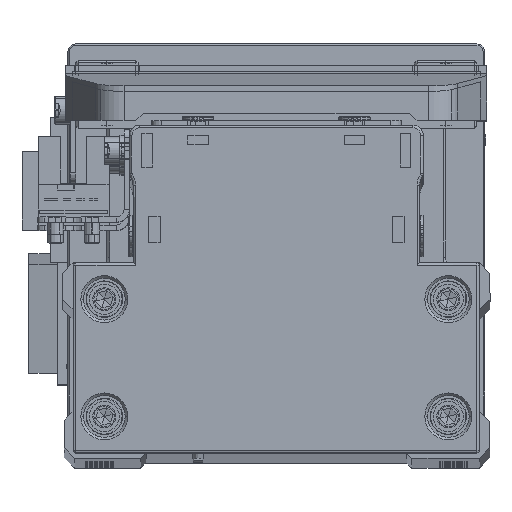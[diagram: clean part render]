
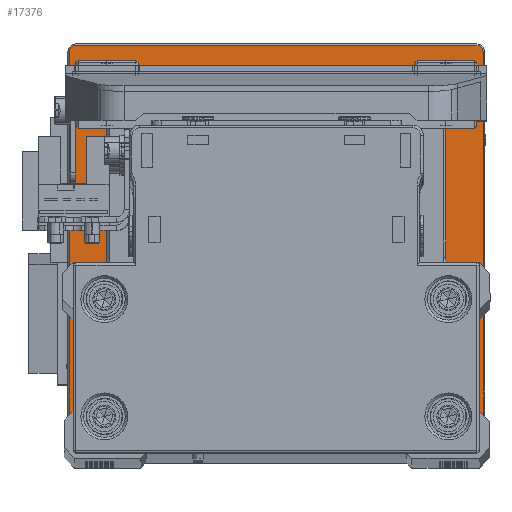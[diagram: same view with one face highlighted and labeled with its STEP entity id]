
A CAD part, top view. The second image highlights one B-rep face of the part: STEP entity #17376.
In plain terms, the highlighted planar face has unit normal (0, 0, 1) as drawn and (0, 1, 0) by its records, which use the part's own axes.
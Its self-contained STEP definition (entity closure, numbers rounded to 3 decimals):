
#340 = LINE ( 'NONE', #12747, #3082 ) ;
#949 = DIRECTION ( 'NONE',  ( 0., 0., 1. ) ) ;
#1612 = CARTESIAN_POINT ( 'NONE',  ( 38.5, 12., -39.7 ) ) ;
#1739 = LINE ( 'NONE', #14143, #7178 ) ;
#1895 = VERTEX_POINT ( 'NONE', #1612 ) ;
#2978 = EDGE_CURVE ( 'NONE', #23711, #27132, #32458, .T. ) ;
#2981 = CIRCLE ( 'NONE', #8174, 1.2 ) ;
#3082 = VECTOR ( 'NONE', #25151, 1000. ) ;
#3329 = DIRECTION ( 'NONE',  ( 0., 0., -1. ) ) ;
#4625 = CARTESIAN_POINT ( 'NONE',  ( 0., 12., 39.7 ) ) ;
#5483 = EDGE_CURVE ( 'NONE', #10350, #1895, #16930, .T. ) ;
#5490 = CARTESIAN_POINT ( 'NONE',  ( -38.5, 12., 39.7 ) ) ;
#6134 = ORIENTED_EDGE ( 'NONE', *, *, #9616, .F. ) ;
#6392 = PLANE ( 'NONE',  #30107 ) ;
#6418 = DIRECTION ( 'NONE',  ( 0., 0., -1. ) ) ;
#6762 = DIRECTION ( 'NONE',  ( 0., 0., 1. ) ) ;
#7178 = VECTOR ( 'NONE', #26543, 1000. ) ;
#8087 = CIRCLE ( 'NONE', #30814, 1.2 ) ;
#8174 = AXIS2_PLACEMENT_3D ( 'NONE', #12040, #24439, #36808 ) ;
#8805 = DIRECTION ( 'NONE',  ( 0., 1., 0. ) ) ;
#9616 = EDGE_CURVE ( 'NONE', #38145, #38342, #13702, .T. ) ;
#9993 = DIRECTION ( 'NONE',  ( 0., 0., -1. ) ) ;
#10350 = VERTEX_POINT ( 'NONE', #21409 ) ;
#11157 = DIRECTION ( 'NONE',  ( 0., 0., -1. ) ) ;
#12040 = CARTESIAN_POINT ( 'NONE',  ( -38.5, 12., 38.5 ) ) ;
#12449 = CARTESIAN_POINT ( 'NONE',  ( -39.7, 12., -38.5 ) ) ;
#12747 = CARTESIAN_POINT ( 'NONE',  ( 0., 12., -39.7 ) ) ;
#13702 = CIRCLE ( 'NONE', #36391, 20.5 ) ;
#14143 = CARTESIAN_POINT ( 'NONE',  ( -39.7, 12., 0. ) ) ;
#14469 = VERTEX_POINT ( 'NONE', #17444 ) ;
#14853 = ORIENTED_EDGE ( 'NONE', *, *, #38380, .T. ) ;
#15172 = AXIS2_PLACEMENT_3D ( 'NONE', #36615, #8805, #21195 ) ;
#16389 = CARTESIAN_POINT ( 'NONE',  ( 0., 12., 0. ) ) ;
#16586 = CIRCLE ( 'NONE', #21775, 20.5 ) ;
#16742 = ORIENTED_EDGE ( 'NONE', *, *, #2978, .T. ) ;
#16930 = CIRCLE ( 'NONE', #39633, 1.2 ) ;
#17011 = DIRECTION ( 'NONE',  ( 1., 0., 0. ) ) ;
#17376 = ADVANCED_FACE ( 'NONE', ( #21836, #34221 ), #6392, .F. ) ;
#17444 = CARTESIAN_POINT ( 'NONE',  ( -39.7, 12., 38.5 ) ) ;
#18008 = VERTEX_POINT ( 'NONE', #35160 ) ;
#18760 = ORIENTED_EDGE ( 'NONE', *, *, #5483, .T. ) ;
#18786 = CARTESIAN_POINT ( 'NONE',  ( 0., 12., 0. ) ) ;
#21195 = DIRECTION ( 'NONE',  ( 0., 0., -1. ) ) ;
#21409 = CARTESIAN_POINT ( 'NONE',  ( 39.7, 12., -38.5 ) ) ;
#21702 = VECTOR ( 'NONE', #17011, 1000. ) ;
#21775 = AXIS2_PLACEMENT_3D ( 'NONE', #22196, #34587, #6762 ) ;
#21836 = FACE_OUTER_BOUND ( 'NONE', #33552, .T. ) ;
#21864 = LINE ( 'NONE', #34248, #25499 ) ;
#22196 = CARTESIAN_POINT ( 'NONE',  ( 0., 12., 0. ) ) ;
#23711 = VERTEX_POINT ( 'NONE', #5490 ) ;
#23931 = ORIENTED_EDGE ( 'NONE', *, *, #33538, .T. ) ;
#24439 = DIRECTION ( 'NONE',  ( 0., 1., 0. ) ) ;
#24598 = EDGE_CURVE ( 'NONE', #29659, #14469, #1739, .T. ) ;
#24975 = EDGE_LOOP ( 'NONE', ( #6134, #25986 ) ) ;
#25151 = DIRECTION ( 'NONE',  ( -1., 0., 0. ) ) ;
#25432 = CARTESIAN_POINT ( 'NONE',  ( 38.5, 12., -38.5 ) ) ;
#25499 = VECTOR ( 'NONE', #6418, 1000. ) ;
#25945 = ORIENTED_EDGE ( 'NONE', *, *, #27508, .T. ) ;
#25986 = ORIENTED_EDGE ( 'NONE', *, *, #33161, .F. ) ;
#26543 = DIRECTION ( 'NONE',  ( 0., 0., 1. ) ) ;
#26617 = CARTESIAN_POINT ( 'NONE',  ( 38.5, 12., 38.5 ) ) ;
#27132 = VERTEX_POINT ( 'NONE', #32084 ) ;
#27230 = ORIENTED_EDGE ( 'NONE', *, *, #36251, .T. ) ;
#27508 = EDGE_CURVE ( 'NONE', #1895, #18008, #340, .T. ) ;
#28801 = DIRECTION ( 'NONE',  ( 0., 1., 0. ) ) ;
#29300 = ORIENTED_EDGE ( 'NONE', *, *, #24598, .T. ) ;
#29659 = VERTEX_POINT ( 'NONE', #12449 ) ;
#30107 = AXIS2_PLACEMENT_3D ( 'NONE', #18786, #31186, #3329 ) ;
#30341 = CARTESIAN_POINT ( 'NONE',  ( 0., 12., -20.5 ) ) ;
#30814 = AXIS2_PLACEMENT_3D ( 'NONE', #26617, #38973, #11157 ) ;
#31186 = DIRECTION ( 'NONE',  ( 0., -1., 0. ) ) ;
#31662 = VERTEX_POINT ( 'NONE', #36430 ) ;
#32084 = CARTESIAN_POINT ( 'NONE',  ( 38.5, 12., 39.7 ) ) ;
#32458 = LINE ( 'NONE', #4625, #21702 ) ;
#32537 = EDGE_CURVE ( 'NONE', #27132, #31662, #8087, .T. ) ;
#32674 = CIRCLE ( 'NONE', #15172, 1.2 ) ;
#32985 = ORIENTED_EDGE ( 'NONE', *, *, #32537, .T. ) ;
#33161 = EDGE_CURVE ( 'NONE', #38342, #38145, #16586, .T. ) ;
#33538 = EDGE_CURVE ( 'NONE', #14469, #23711, #2981, .T. ) ;
#33552 = EDGE_LOOP ( 'NONE', ( #18760, #25945, #14853, #29300, #23931, #16742, #32985, #27230 ) ) ;
#34221 = FACE_BOUND ( 'NONE', #24975, .T. ) ;
#34248 = CARTESIAN_POINT ( 'NONE',  ( 39.7, 12., 0. ) ) ;
#34587 = DIRECTION ( 'NONE',  ( 0., 1., 0. ) ) ;
#35160 = CARTESIAN_POINT ( 'NONE',  ( -38.5, 12., -39.7 ) ) ;
#36251 = EDGE_CURVE ( 'NONE', #31662, #10350, #21864, .T. ) ;
#36391 = AXIS2_PLACEMENT_3D ( 'NONE', #16389, #28801, #949 ) ;
#36430 = CARTESIAN_POINT ( 'NONE',  ( 39.7, 12., 38.5 ) ) ;
#36615 = CARTESIAN_POINT ( 'NONE',  ( -38.5, 12., -38.5 ) ) ;
#36808 = DIRECTION ( 'NONE',  ( 0., 0., -1. ) ) ;
#37802 = DIRECTION ( 'NONE',  ( 0., 1., 0. ) ) ;
#38061 = CARTESIAN_POINT ( 'NONE',  ( 0., 12., 20.5 ) ) ;
#38145 = VERTEX_POINT ( 'NONE', #38061 ) ;
#38342 = VERTEX_POINT ( 'NONE', #30341 ) ;
#38380 = EDGE_CURVE ( 'NONE', #18008, #29659, #32674, .T. ) ;
#38973 = DIRECTION ( 'NONE',  ( 0., 1., 0. ) ) ;
#39633 = AXIS2_PLACEMENT_3D ( 'NONE', #25432, #37802, #9993 ) ;
